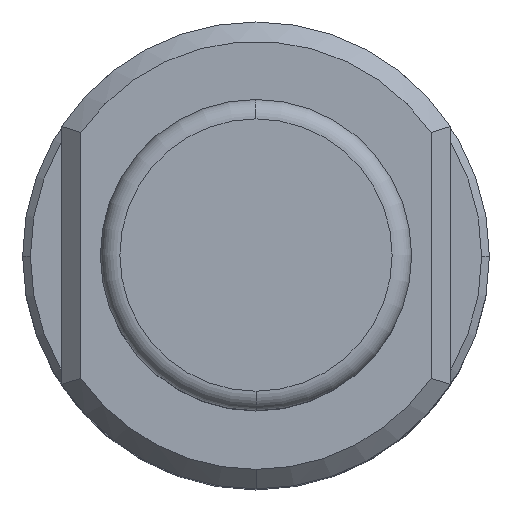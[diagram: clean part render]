
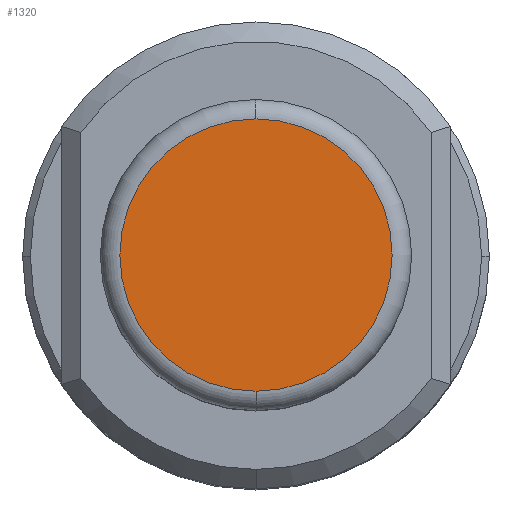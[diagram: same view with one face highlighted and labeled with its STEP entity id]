
A CAD part, top view. The second image highlights one B-rep face of the part: STEP entity #1320.
In plain terms, the highlighted planar face has unit normal (0, 0, 1).
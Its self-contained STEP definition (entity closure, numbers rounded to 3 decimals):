
#56 = CARTESIAN_POINT ( 'NONE',  ( 0., 3.5, 22.2 ) ) ;
#60 = FACE_OUTER_BOUND ( 'NONE', #1529, .T. ) ;
#69 = DIRECTION ( 'NONE',  ( 0., 0., 1. ) ) ;
#131 = CARTESIAN_POINT ( 'NONE',  ( 0., 0., 22.2 ) ) ;
#156 = DIRECTION ( 'NONE',  ( 0., -1., 0. ) ) ;
#190 = EDGE_CURVE ( 'NONE', #573, #271, #313, .T. ) ;
#195 = CARTESIAN_POINT ( 'NONE',  ( 0., 0., 22.2 ) ) ;
#196 = ORIENTED_EDGE ( 'NONE', *, *, #190, .T. ) ;
#220 = AXIS2_PLACEMENT_3D ( 'NONE', #195, #69, #1151 ) ;
#262 = CIRCLE ( 'NONE', #1688, 3.5 ) ;
#271 = VERTEX_POINT ( 'NONE', #890 ) ;
#313 = CIRCLE ( 'NONE', #220, 3.5 ) ;
#350 = AXIS2_PLACEMENT_3D ( 'NONE', #425, #1242, #156 ) ;
#425 = CARTESIAN_POINT ( 'NONE',  ( 0., 0., 22.2 ) ) ;
#460 = ORIENTED_EDGE ( 'NONE', *, *, #821, .T. ) ;
#573 = VERTEX_POINT ( 'NONE', #56 ) ;
#697 = PLANE ( 'NONE',  #350 ) ;
#821 = EDGE_CURVE ( 'NONE', #271, #573, #262, .T. ) ;
#890 = CARTESIAN_POINT ( 'NONE',  ( 0., -3.5, 22.2 ) ) ;
#949 = DIRECTION ( 'NONE',  ( 0., -1., 0. ) ) ;
#1151 = DIRECTION ( 'NONE',  ( 0., -1., 0. ) ) ;
#1242 = DIRECTION ( 'NONE',  ( 0., 0., -1. ) ) ;
#1320 = ADVANCED_FACE ( 'NONE', ( #60 ), #697, .F. ) ;
#1345 = DIRECTION ( 'NONE',  ( 0., 0., 1. ) ) ;
#1529 = EDGE_LOOP ( 'NONE', ( #460, #196 ) ) ;
#1688 = AXIS2_PLACEMENT_3D ( 'NONE', #131, #1345, #949 ) ;
